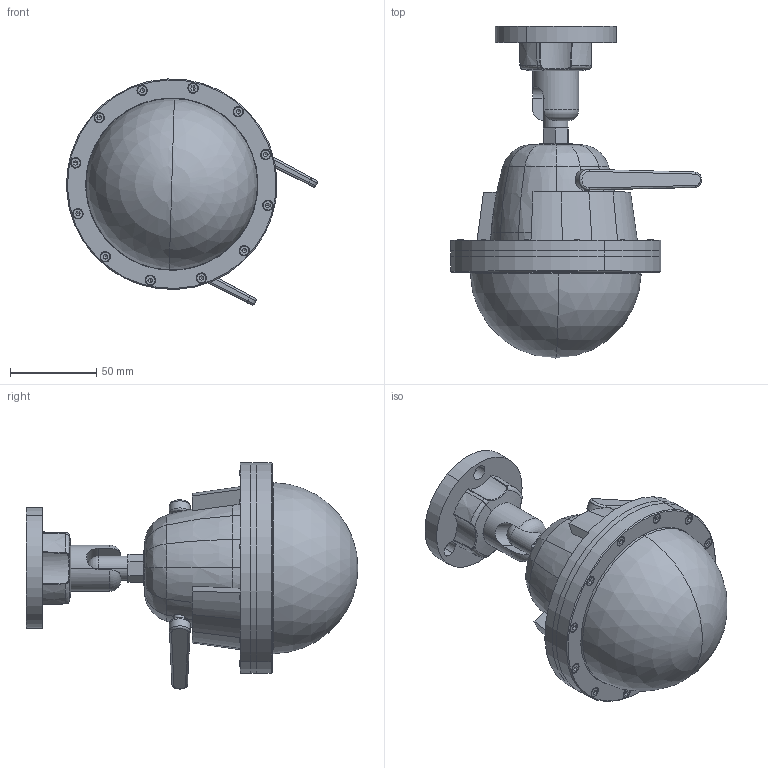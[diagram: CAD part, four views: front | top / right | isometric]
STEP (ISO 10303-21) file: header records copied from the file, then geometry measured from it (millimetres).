
FILE_DESCRIPTION(('CATIA V5 STEP Exchange','CAx-IF Rec.Pracs.--- Model Styling and Organization---1.5--- 2016-08-15','CAx-IF Rec.Pracs.---Supplemental Geometry---1.0---2011-11-01','CAx-IF Rec.Pracs.--- Composite Materials ---3.4---2017-06-13','CAx-IF Rec.Pracs.---Tessellated 3D Geometry---1.0---2015-12-17'),'2;1');
FILE_NAME('D:\09_IMOU\CAD_ZENIT_v2\Soporte_cupula_SPMN\Soporte_cupula_IMOU.stp','2026-02-08T00:25:45+00:00',('none'),('none'),'CATIA Version 5-6 Release 2023','CATIA V5 STEP AP242 v2','none');
FILE_SCHEMA(('AP242_MANAGED_MODEL_BASED_3D_ENGINEERING_MIM_LF {1 0 10303 442 1 1 4}'));
Length unit declared in the file: millimetre
Products named in the file (10): Soporte_cupula_IMOU; Aro_sup; Aro_int_2; Aro_int_1; Aro_inf; Camara; Junta; Cupula; M3x16_DIN912; M3_DIN934
Assembly tree (31 placements, depth 2):
  Soporte_cupula_IMOU
    Aro_sup
    Aro_int_2
    Aro_int_1
    Aro_inf
    Camara
    Junta
    Cupula
    M3x16_DIN912  x12
    M3_DIN934  x12
Bounding box: 145.32 x 192.2 x 130.93 mm (x, y, z)
Volume: 529537.4 mm3; surface area: 174028.7 mm2
Topology: 33 solids, 34 shells, 1246 faces, 3103 edges, 1982 vertices
Faces by surface type: plane 462, cylinder 369, cone 219, bspline 128, torus 56, sphere 8, extrusion 4
Entity records: 28478 total; most frequent: CARTESIAN_POINT 11666, ORIENTED_EDGE 3814, DIRECTION 2474, EDGE_CURVE 1907, VERTEX_POINT 1212, AXIS2_PLACEMENT_3D 1168, EDGE_LOOP 885, VECTOR 788
